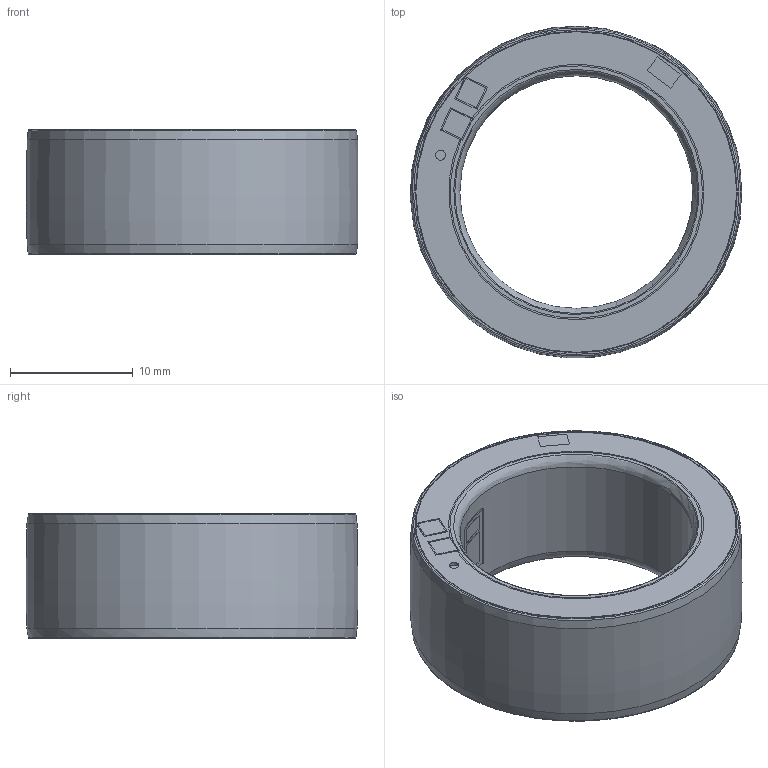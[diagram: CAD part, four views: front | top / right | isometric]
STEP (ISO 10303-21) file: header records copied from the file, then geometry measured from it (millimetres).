
FILE_DESCRIPTION(('FreeCAD Model'),'2;1');
FILE_NAME('Open CASCADE Shape Model','2026-10-23T21:15:56',('FreeCAD'),( 'FreeCAD'),'Open CASCADE STEP processor 7.8','FreeCAD','Unknown');
FILE_SCHEMA(('AUTOMOTIVE_DESIGN { 1 0 10303 214 1 1 1 1 }'));
Length unit declared in the file: millimetre
Products named in the file (1): Open CASCADE STEP translator 7.8 1
Bounding box: 27.03 x 27.07 x 10.2 mm (x, y, z)
Volume: 2607.8 mm3; surface area: 10972.2 mm2
Topology: 80 solids, 80 shells, 1137 faces, 2873 edges, 1920 vertices
Faces by surface type: plane 1003, cylinder 111, revolution 19, bspline 4
Full cylindrical faces by diameter (mm): 0.35 x7, 0.8 x5, 1 x4, 1.3 x1, 2.6 x3, 2.7 x3, 19 x1, 26.18 x5, 26.28 x4, 26.34 x2
Entity records: 38133 total; most frequent: CARTESIAN_POINT 10775, ORIENTED_EDGE 5746, DIRECTION 5176, EDGE_CURVE 2873, LINE 2451, VECTOR 2451, VERTEX_POINT 1920, AXIS2_PLACEMENT_3D 1353
